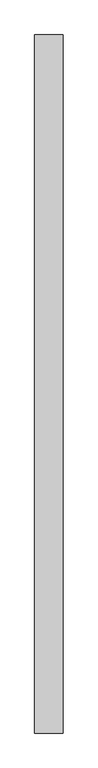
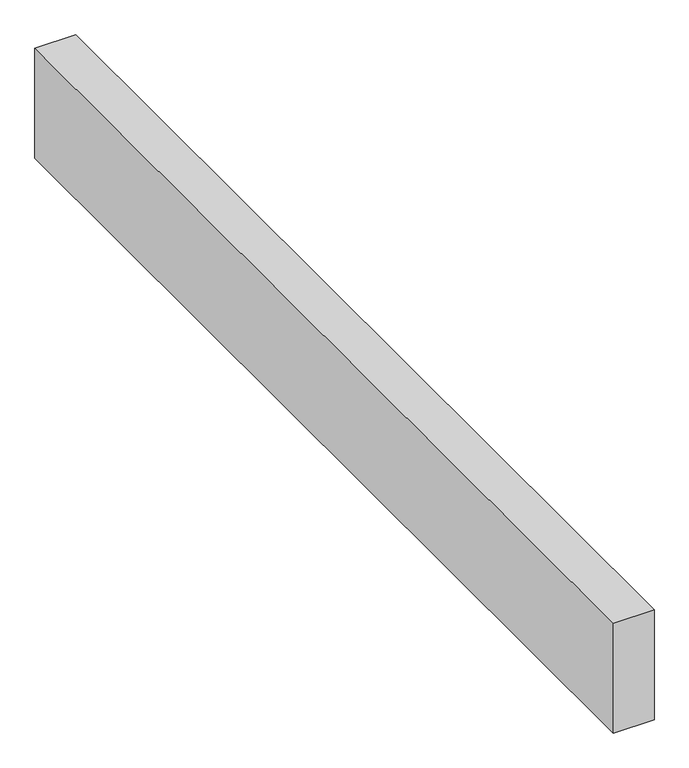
"""IFC4 building model written with IfcOpenShell, lengths in millimetres: proxy geometry."""

from ifc_helpers import new_model, si_unit, frame, origin, place, context, project, spatial, polyline, outline, extrude, source, transform, mapped, element, save


def structural_framing_ca52f5b1(model_context):
    return source(origin(), model_context, "Body", "SweptSolid", [
        extrude(outline(polyline([(70.0, -1722.4), (-70.0, -1722.4), (-70.0, 1722.4), (70.0, 1722.4), (70.0, -1722.4)])), frame((0.0, 0.0, -400.0), z_axis=(0.0, 0.0, 1.0), x_axis=(1.0, 0.0, 0.0)), (0.0, 0.0, 1.0), 400.0),
    ])


if __name__ == "__main__":
    model = new_model("IFC4")
    model_context = context("Model", 3, world=origin())
    ifc_project = project(units=[si_unit("LENGTHUNIT", "METRE", prefix="MILLI")], contexts=[model_context])
    site = spatial("IfcSite", under=ifc_project)
    building = spatial("IfcBuilding", under=site)
    placement = place(None, origin())
    structural_framing_shape = structural_framing_ca52f5b1(model_context)
    element("IfcBuildingElementProxy", 1, Name="Structural Framing", at=placement, inside=building, context=model_context, shape_type="MappedRepresentation", body=[
        mapped(structural_framing_shape, transform((0.0, 0.0, 0.0), x_axis=(1.0, 0.0, 0.0), y_axis=(0.0, 1.0, 0.0), z_axis=(0.0, 0.0, 1.0))),
    ])
    save(model, "model.ifc")
